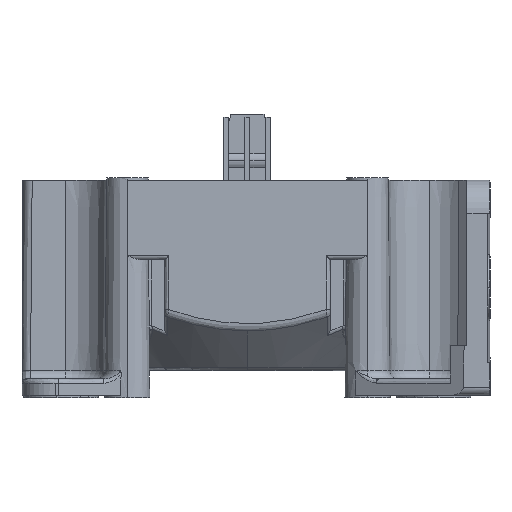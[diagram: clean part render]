
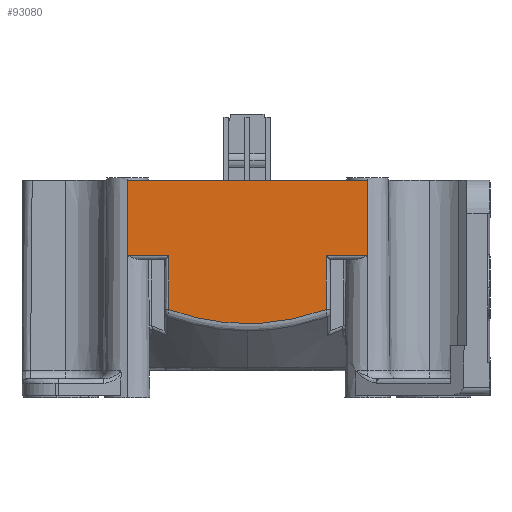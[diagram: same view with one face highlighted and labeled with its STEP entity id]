
A CAD part, left-side view. The second image highlights one B-rep face of the part: STEP entity #93080.
In plain terms, the highlighted planar face has unit normal (-1, 0, 0.009).
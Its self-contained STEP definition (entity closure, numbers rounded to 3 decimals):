
#89430=CARTESIAN_POINT('',(-26.178,-14.5,7.109));
#89440=DIRECTION('',(-0.009,0.,-1.));
#89450=VECTOR('',#89440,295.474);
#89460=LINE('',#89430,#89450);
#91880=CARTESIAN_POINT('',(-26.1,-14.5,16.1));
#91890=DIRECTION('',(-1.,0.,0.009));
#91900=DIRECTION('',(0.009,0.,1.));
#91910=AXIS2_PLACEMENT_3D('',#91880,#91890,#91900);
#91920=PLANE('',#91910);
#91930=CARTESIAN_POINT('',(-26.179,-9.5,7.004));
#91940=DIRECTION('',(-0.009,0.,-1.));
#91950=VECTOR('',#91940,1.);
#91960=LINE('',#91930,#91950);
#91970=CARTESIAN_POINT('',(-26.179,-9.5,7.004));
#91980=VERTEX_POINT('',#91970);
#91990=CARTESIAN_POINT('',(-26.236,-9.5,0.486));
#92000=VERTEX_POINT('',#91990);
#92010=EDGE_CURVE('',#91980,#92000,#91960,.T.);
#92020=ORIENTED_EDGE('',*,*,#92010,.F.);
#92030=CARTESIAN_POINT('',(-26.236,-9.5,0.486));
#92040=CARTESIAN_POINT('',(-26.236,-9.437,0.463)
);
#92050=CARTESIAN_POINT('',(-26.237,-9.373,0.441)
);
#92060=CARTESIAN_POINT('',(-26.237,-9.31,0.419)
);
#92070=CARTESIAN_POINT('',(-26.237,-9.243,0.396)
);
#92080=CARTESIAN_POINT('',(-26.237,-9.176,0.373)
);
#92090=CARTESIAN_POINT('',(-26.239,-8.62,0.185)
);
#92100=CARTESIAN_POINT('',(-26.24,-8.126,0.029
));
#92110=CARTESIAN_POINT('',(-26.242,-7.382,-0.186
));
#92120=CARTESIAN_POINT('',(-26.243,-7.133,-0.255
));
#92130=CARTESIAN_POINT('',(-26.244,-6.633,-0.386
));
#92140=CARTESIAN_POINT('',(-26.244,-6.382,-0.449))
;
#92150=CARTESIAN_POINT('',(-26.245,-5.879,-0.567
));
#92160=CARTESIAN_POINT('',(-26.246,-5.628,-0.623
));
#92170=CARTESIAN_POINT('',(-26.247,-5.123,-0.728))
;
#92180=CARTESIAN_POINT('',(-26.247,-4.87,-0.777)
);
#92190=CARTESIAN_POINT('',(-26.248,-4.362,-0.869
));
#92200=CARTESIAN_POINT('',(-26.248,-4.108,-0.911
));
#92210=CARTESIAN_POINT('',(-26.249,-3.598,-0.987
));
#92220=CARTESIAN_POINT('',(-26.249,-3.343,-1.022)
);
#92230=CARTESIAN_POINT('',(-26.25,-2.831,-1.084))
;
#92240=CARTESIAN_POINT('',(-26.25,-2.574,-1.112)
);
#92250=CARTESIAN_POINT('',(-26.251,-2.061,-1.158)
);
#92260=CARTESIAN_POINT('',(-26.251,-1.804,-1.178)
);
#92270=CARTESIAN_POINT('',(-26.251,-1.29,-1.21)
);
#92280=CARTESIAN_POINT('',(-26.251,-1.032,-1.221)
);
#92290=CARTESIAN_POINT('',(-26.251,-0.517,-1.237)
);
#92300=CARTESIAN_POINT('',(-26.251,-0.259,-1.241
));
#92310=CARTESIAN_POINT('',(-26.251,0.256,-1.241)
);
#92320=CARTESIAN_POINT('',(-26.251,0.514,-1.237)
);
#92330=CARTESIAN_POINT('',(-26.251,1.029,-1.221))
;
#92340=CARTESIAN_POINT('',(-26.251,1.287,-1.21))
;
#92350=CARTESIAN_POINT('',(-26.251,1.801,-1.178));
#92360=CARTESIAN_POINT('',(-26.251,2.058,-1.159));
#92370=CARTESIAN_POINT('',(-26.25,2.572,-1.112));
#92380=CARTESIAN_POINT('',(-26.25,2.828,-1.085))
;
#92390=CARTESIAN_POINT('',(-26.249,3.34,-1.023))
;
#92400=CARTESIAN_POINT('',(-26.249,3.595,-0.988))
;
#92410=CARTESIAN_POINT('',(-26.248,4.105,-0.911)
);
#92420=CARTESIAN_POINT('',(-26.248,4.359,-0.869)
);
#92430=CARTESIAN_POINT('',(-26.247,4.867,-0.778)
);
#92440=CARTESIAN_POINT('',(-26.247,5.12,-0.729)
);
#92450=CARTESIAN_POINT('',(-26.246,5.625,-0.624)
);
#92460=CARTESIAN_POINT('',(-26.245,5.876,-0.568)
);
#92470=CARTESIAN_POINT('',(-26.244,6.379,-0.45)
);
#92480=CARTESIAN_POINT('',(-26.244,6.63,-0.387)
);
#92490=CARTESIAN_POINT('',(-26.243,7.13,-0.256))
;
#92500=CARTESIAN_POINT('',(-26.242,7.379,-0.187)
);
#92510=CARTESIAN_POINT('',(-26.24,8.124,0.028)
);
#92520=CARTESIAN_POINT('',(-26.239,8.617,0.184));
#92530=CARTESIAN_POINT('',(-26.237,9.174,0.373))
;
#92540=CARTESIAN_POINT('',(-26.237,9.242,0.396))
;
#92550=CARTESIAN_POINT('',(-26.237,9.31,0.419))
;
#92560=CARTESIAN_POINT('',(-26.237,9.373,0.441));
#92570=CARTESIAN_POINT('',(-26.236,9.437,0.463))
;
#92580=CARTESIAN_POINT('',(-26.236,9.5,0.486));
#92590=B_SPLINE_CURVE_WITH_KNOTS('',3,(#92030,#92040,#92050,#92060,
#92070,#92080,#92090,#92100,#92110,#92120,#92130,#92140,#92150,#92160,
#92170,#92180,#92190,#92200,#92210,#92220,#92230,#92240,#92250,#92260,
#92270,#92280,#92290,#92300,#92310,#92320,#92330,#92340,#92350,#92360,
#92370,#92380,#92390,#92400,#92410,#92420,#92430,#92440,#92450,#92460,
#92470,#92480,#92490,#92500,#92510,#92520,#92530,#92540,#92550,#92560,
#92570,#92580),.UNSPECIFIED.,.F.,.F.,(4,3,2,2,2,2,2,2,2,2,2,2,2,2,2,2,2,
2,2,2,2,2,2,2,2,3,4),(51.807,51.918,52.133,
53.704,54.491,55.277,56.062,56.847,
57.633,58.419,59.205,59.991,60.777,
61.563,62.349,63.135,63.921,64.707,
65.493,66.278,67.064,67.849,68.635,
69.421,70.993,71.21,71.321),.UNSPECIFIED.);
#92600=CARTESIAN_POINT('',(-26.236,9.5,0.486));
#92610=VERTEX_POINT('',#92600);
#92620=EDGE_CURVE('',#92000,#92610,#92590,.T.);
#92630=ORIENTED_EDGE('',*,*,#92620,.F.);
#92640=CARTESIAN_POINT('',(-26.179,9.5,7.004));
#92650=DIRECTION('',(-0.009,0.,-1.));
#92660=VECTOR('',#92650,1.);
#92670=LINE('',#92640,#92660);
#92680=CARTESIAN_POINT('',(-26.179,9.5,7.004));
#92690=VERTEX_POINT('',#92680);
#92700=EDGE_CURVE('',#92690,#92610,#92670,.T.);
#92710=ORIENTED_EDGE('',*,*,#92700,.T.);
#92720=CARTESIAN_POINT('',(-26.179,14.5,7.004));
#92730=DIRECTION('',(0.,-1.,0.));
#92740=VECTOR('',#92730,1.);
#92750=LINE('',#92720,#92740);
#92760=CARTESIAN_POINT('',(-26.179,14.5,7.004));
#92770=VERTEX_POINT('',#92760);
#92780=EDGE_CURVE('',#92770,#92690,#92750,.T.);
#92790=ORIENTED_EDGE('',*,*,#92780,.T.);
#92800=CARTESIAN_POINT('',(-26.178,14.5,7.109));
#92810=DIRECTION('',(-0.009,0.,-1.));
#92820=VECTOR('',#92810,295.474);
#92830=LINE('',#92800,#92820);
#92840=CARTESIAN_POINT('',(-26.1,14.5,16.1));
#92850=VERTEX_POINT('',#92840);
#92860=EDGE_CURVE('',#92850,#92770,#92830,.T.);
#92870=ORIENTED_EDGE('',*,*,#92860,.T.);
#92880=CARTESIAN_POINT('',(-26.1,-14.5,16.1));
#92890=DIRECTION('',(0.,1.,0.));
#92900=VECTOR('',#92890,1.);
#92910=LINE('',#92880,#92900);
#92920=CARTESIAN_POINT('',(-26.1,-14.5,16.1));
#92930=VERTEX_POINT('',#92920);
#92940=EDGE_CURVE('',#92930,#92850,#92910,.T.);
#92950=ORIENTED_EDGE('',*,*,#92940,.T.);
#92960=CARTESIAN_POINT('',(-26.179,-14.5,7.004));
#92970=VERTEX_POINT('',#92960);
#92980=EDGE_CURVE('',#92930,#92970,#89460,.T.);
#92990=ORIENTED_EDGE('',*,*,#92980,.F.);
#93000=CARTESIAN_POINT('',(-26.179,-9.5,7.004));
#93010=DIRECTION('',(0.,-1.,0.));
#93020=VECTOR('',#93010,1.);
#93030=LINE('',#93000,#93020);
#93040=EDGE_CURVE('',#91980,#92970,#93030,.T.);
#93050=ORIENTED_EDGE('',*,*,#93040,.T.);
#93060=EDGE_LOOP('',(#93050,#92990,#92950,#92870,#92790,#92710,#92630,
#92020));
#93070=FACE_OUTER_BOUND('',#93060,.T.);
#93080=ADVANCED_FACE('',(#93070),#91920,.T.);
